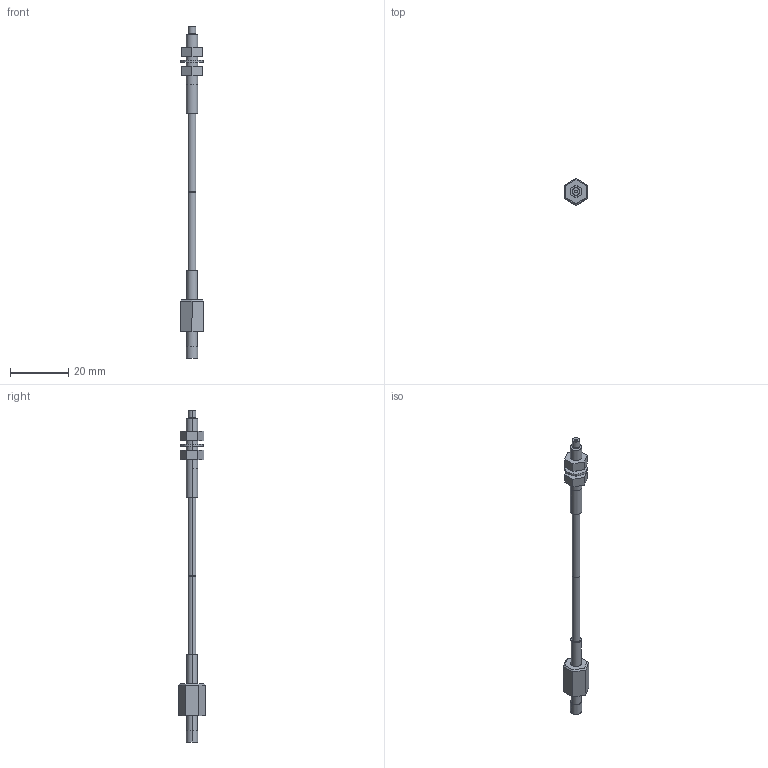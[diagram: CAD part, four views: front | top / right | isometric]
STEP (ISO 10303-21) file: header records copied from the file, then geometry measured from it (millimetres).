
FILE_DESCRIPTION (( 'STEP AP203' ), '1' );
FILE_NAME ('FT-H30-M1V.STEP', '2005-09-08T01:51:48', ( '' ), ( '' ), 'SwSTEP 2.0', 'SolidWorks 2004073', '' );
FILE_SCHEMA (( 'CONFIG_CONTROL_DESIGN' ));
Length unit declared in the file: millimetre
Products named in the file (1): FT-H30-M1V
Bounding box: 8 x 9.24 x 114 mm (x, y, z)
Volume: 1668.4 mm3; surface area: 2192.5 mm2
Topology: 6 solids, 6 shells, 74 faces, 156 edges, 102 vertices
Faces by surface type: plane 44, cylinder 30
Entity records: 2075 total; most frequent: DIRECTION 366, CARTESIAN_POINT 333, ORIENTED_EDGE 312, EDGE_CURVE 156, AXIS2_PLACEMENT_3D 135, VERTEX_POINT 102, VECTOR 96, LINE 96
